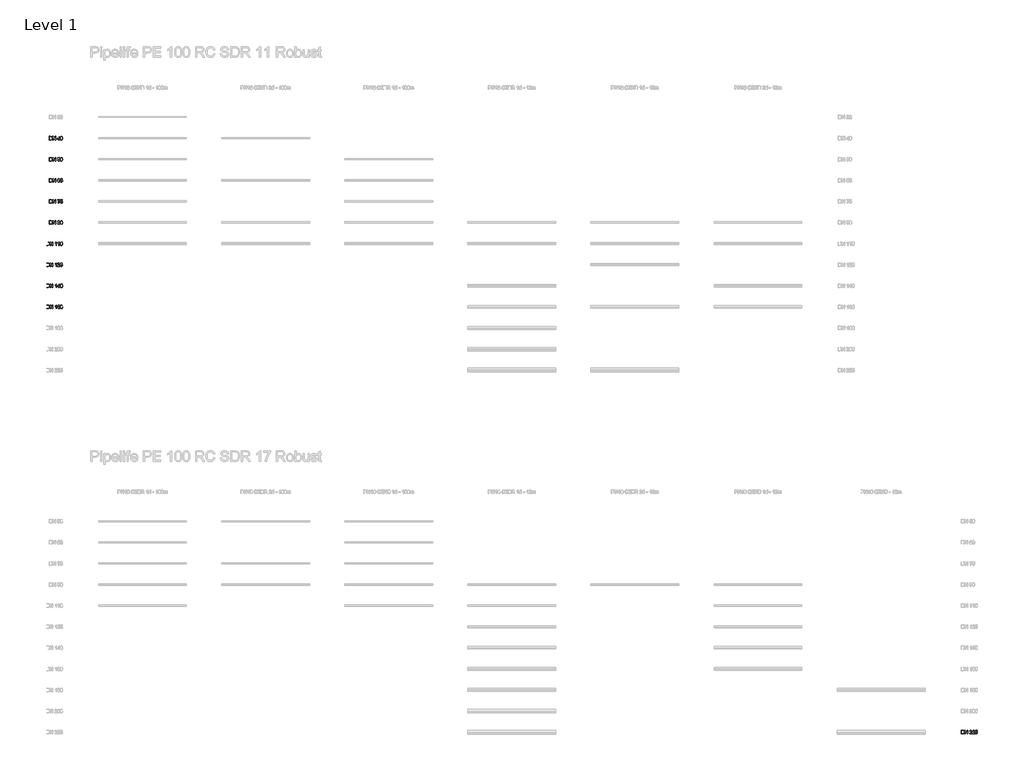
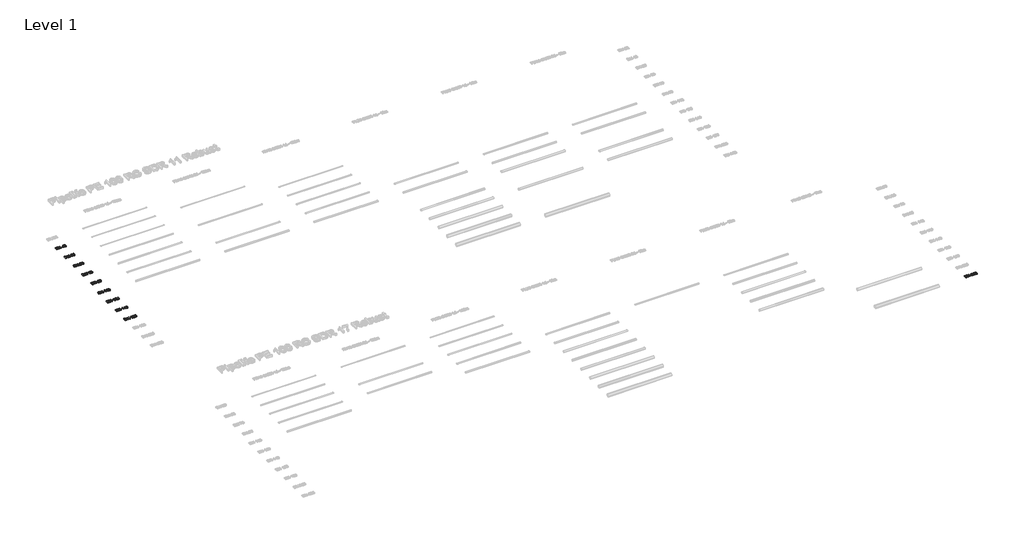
# One storey, part 6 of 13: 10 proxies.
"""IFC4 building model written with IfcOpenShell, lengths in millimetres."""

from ifc_helpers import new_model, si_unit, origin, origin_with_axes, place, context, project, spatial, polyline, outline, extrude, element, save

model = new_model("IFC4")

# Units and contexts
model_context = context("Model", 3, world=origin())
ifc_project = project(units=[si_unit("LENGTHUNIT", "METRE", prefix="MILLI")], contexts=[model_context])

# Site, building, storey
site = spatial("IfcSite", under=ifc_project)
building = spatial("IfcBuilding", under=site)
storey = spatial("IfcBuildingStorey", under=building, Name="Level 1", Elevation=0.0)

# Proxies
placement = place(None, origin())
element("IfcBuildingElementProxy", 1, Name="200mm Arial", ObjectType="200mm Arial", at=placement, inside=storey, context=model_context, shape_type="SweptSolid", body=[
    extrude(outline(polyline([(-19491.3116028, -10313.949573), (-19491.3116028, -10113.0369527), (-19422.0026349, -10113.0369527), (-19386.1464031, -10115.9309577), (-19370.1312736, -10121.5105013), (-19356.6177416, -10130.302881), (-19342.724065, -10145.606772), (-19332.8280393, -10164.6385338), (-19326.9051392, -10187.0302846), (-19324.9308391, -10212.4141423), (-19330.2773908, -10252.9547382), (-19344.0116519, -10282.2136195), (-19362.3567008, -10300.436041), (-19386.3671323, -10310.5160077), (-19418.6671715, -10313.949573), (-19491.3116028, -10313.949573)]), holes=[polyline([(-19466.1975253, -10288.8354954), (-19421.7573803, -10288.8354954), (-19389.4328156, -10285.2057264), (-19370.7934612, -10274.9540815), (-19362.0685265, -10264.0831685), (-19355.5140957, -10250.0116822), (-19351.4122114, -10232.6783089), (-19350.0449167, -10212.0217348), (-19352.7243239, -10184.6513144), (-19360.7625455, -10164.4423301), (-19372.6390025, -10150.5609162), (-19386.8331162, -10142.1732067), (-19422.4440933, -10138.1510302), (-19466.1975253, -10138.1510302), (-19466.1975253, -10288.8354954)])]), origin_with_axes(), (0.0, 0.0, 1.0), 50.0),
    extrude(outline(polyline([(-19290.3989825, -10313.949573), (-19290.3989825, -10113.0369527), (-19263.5190714, -10113.0369527), (-19158.5500754, -10272.2072292), (-19158.5500754, -10113.0369527), (-19133.4359979, -10113.0369527), (-19133.4359979, -10313.949573), (-19160.315909, -10313.949573), (-19265.284905, -10154.7302454), (-19265.284905, -10313.949573), (-19290.3989825, -10313.949573)])), origin_with_axes(), (0.0, 0.0, 1.0), 50.0),
    extrude(outline(polyline([(-18926.2448582, -10313.949573), (-18951.3589358, -10313.949573), (-18951.3589358, -10157.3789958), (-18975.1486381, -10174.3260931), (-19001.5870908, -10187.0057592), (-19001.5870908, -10163.2651077), (-18964.7743658, -10139.769711), (-18951.3037535, -10126.1948653), (-18942.431666, -10113.0369527), (-18926.2448582, -10113.0369527), (-18926.2448582, -10313.949573)])), origin_with_axes(), (0.0, 0.0, 1.0), 50.0),
    extrude(outline(polyline([(-18737.8892767, -10166.4043674), (-18763.0033542, -10169.5436271), (-18772.5192352, -10148.5988789), (-18783.9113143, -10140.7629924), (-18797.6823636, -10138.1510302), (-18820.3438945, -10144.2333458), (-18829.7800677, -10153.8411973), (-18837.4871955, -10167.066555), (-18842.6927257, -10185.7733545), (-18844.6241062, -10211.8255311), (-18834.5502709, -10200.0717013), (-18822.4776101, -10191.7882251), (-18809.0805741, -10186.8770005), (-18795.0336133, -10185.2399256), (-18771.8325221, -10189.7158232), (-18752.3593018, -10203.143516), (-18739.1523382, -10223.6590686), (-18734.750017, -10249.3985455), (-18736.8224189, -10267.3818437), (-18743.0396246, -10284.0530295), (-18752.8865994, -10298.1919608), (-18765.8483083, -10308.5784958), (-18781.3361403, -10314.9612484), (-18798.7614842, -10317.0888326), (-18827.2539447, -10311.4479754), (-18849.9461324, -10294.5254036), (-18858.6051549, -10281.4165418), (-18864.7901709, -10264.6533856), (-18869.7381838, -10220.1641897), (-18864.2444793, -10170.144501), (-18857.3773487, -10151.0667539), (-18847.7633659, -10135.9437382), (-18837.3431084, -10125.9220195), (-18825.2612505, -10118.763649), (-18796.1127338, -10113.0369527), (-18774.0766023, -10116.5808825), (-18756.4305292, -10127.2126722), (-18744.0696942, -10144.0984558), (-18737.8892767, -10166.4043674)]), holes=[polyline([(-18844.6241062, -10249.0061381), (-18838.8115707, -10270.7602267), (-18823.3605269, -10286.554627), (-18800.7235215, -10291.9747551), (-18784.1504376, -10289.1665892), (-18771.1212836, -10280.7420915), (-18762.6783918, -10267.4983397), (-18759.8640945, -10250.2324114), (-18762.6416036, -10233.6593275), (-18770.9741308, -10221.022581), (-18784.224014, -10213.0211476), (-18801.7535911, -10210.3540031), (-18818.3021495, -10213.0211476), (-18832.1406439, -10221.022581), (-18841.5032406, -10233.3527592), (-18844.6241062, -10249.0061381)])]), origin_with_axes(), (0.0, 0.0, 1.0), 50.0),
    extrude(outline(polyline([(-18712.7751992, -10215.1119436), (-18710.9296578, -10182.9529258), (-18705.3930338, -10157.3054194), (-18696.2205094, -10137.7770168), (-18683.4672669, -10123.9753106), (-18667.0413358, -10115.7715422), (-18646.8507456, -10113.0369527), (-18631.3751764, -10114.6556334), (-18617.5182879, -10119.5116758), (-18605.930005, -10127.4150073), (-18597.2602527, -10138.1755557), (-18585.4880288, -10167.9004209), (-18580.9262921, -10215.1119436), (-18582.7534393, -10247.0870203), (-18588.2348811, -10272.6732131), (-18597.3522232, -10292.2200098), (-18610.0870716, -10306.0768983), (-18626.5497909, -10314.335849), (-18646.8507456, -10317.0888326), (-18672.9458418, -10312.3063667), (-18692.7624186, -10297.9589689), (-18701.5180101, -10282.8298218), (-18707.772004, -10263.9789353), (-18712.7751992, -10215.1119436)]), holes=[polyline([(-18687.6611216, -10215.0628927), (-18684.7180657, -10254.5672876), (-18675.8888978, -10277.4311536), (-18662.7432478, -10288.3388547), (-18646.8507456, -10291.9747551), (-18630.9582434, -10288.326592), (-18617.8125935, -10277.3821026), (-18608.9834256, -10254.5059739), (-18606.0403696, -10215.0628927), (-18608.8853237, -10176.4475459), (-18617.420186, -10153.4058703), (-18630.5413105, -10141.9647402), (-18647.1450512, -10138.1510302), (-18662.8658751, -10141.5110191), (-18675.4964903, -10151.5909857), (-18684.6199638, -10176.0674012), (-18687.6611216, -10215.0628927)])]), origin_with_axes(), (0.0, 0.0, 1.0), 50.0),
])
element("IfcBuildingElementProxy", 2, Name="200mm Arial", ObjectType="200mm Arial", at=placement, inside=storey, context=model_context, shape_type="SweptSolid", body=[
    extrude(outline(polyline([(-19337.4878779, -713.949573), (-19337.4878779, -513.0369527), (-19268.17891, -513.0369527), (-19232.3226782, -515.9309577), (-19216.3075487, -521.5105013), (-19202.7940167, -530.302881), (-19188.90034, -545.606772), (-19179.0043144, -564.6385338), (-19173.0814143, -587.0302846), (-19171.1071142, -612.4141423), (-19176.4536659, -652.9547382), (-19190.187927, -682.2136195), (-19208.5329759, -700.436041), (-19232.5434074, -710.5160077), (-19264.8434466, -713.949573), (-19337.4878779, -713.949573)]), holes=[polyline([(-19312.3738004, -688.8354954), (-19267.9336553, -688.8354954), (-19235.6090907, -685.2057264), (-19216.9697363, -674.9540815), (-19208.2448016, -664.0831685), (-19201.6903707, -650.0116822), (-19197.5884865, -632.6783089), (-19196.2211917, -612.0217348), (-19198.9005989, -584.6513144), (-19206.9388205, -564.4423301), (-19218.8152776, -550.5609162), (-19233.0093913, -542.1732067), (-19268.6203684, -538.1510302), (-19312.3738004, -538.1510302), (-19312.3738004, -688.8354954)])]), origin_with_axes(), (0.0, 0.0, 1.0), 50.0),
    extrude(outline(polyline([(-19136.5752576, -713.949573), (-19136.5752576, -513.0369527), (-19109.6953465, -513.0369527), (-19004.7263505, -672.2072292), (-19004.7263505, -513.0369527), (-18979.612273, -513.0369527), (-18979.612273, -713.949573), (-19006.4921841, -713.949573), (-19111.4611801, -554.7302454), (-19111.4611801, -713.949573), (-19136.5752576, -713.949573)])), origin_with_axes(), (0.0, 0.0, 1.0), 50.0),
    extrude(outline(polyline([(-18784.9781721, -713.949573), (-18784.9781721, -666.8606776), (-18876.0167031, -666.8606776), (-18876.0167031, -641.7466), (-18778.6996527, -516.1762123), (-18759.8640945, -516.1762123), (-18759.8640945, -641.7466), (-18734.750017, -641.7466), (-18734.750017, -666.8606776), (-18759.8640945, -666.8606776), (-18759.8640945, -713.949573), (-18784.9781721, -713.949573)]), holes=[polyline([(-18784.9781721, -641.7466), (-18784.9781721, -564.1480245), (-18845.1146156, -641.7466), (-18784.9781721, -641.7466)])]), origin_with_axes(), (0.0, 0.0, 1.0), 50.0),
    extrude(outline(polyline([(-18712.7751992, -615.1119436), (-18710.9296578, -582.9529258), (-18705.3930338, -557.3054194), (-18696.2205094, -537.7770168), (-18683.4672669, -523.9753106), (-18667.0413358, -515.7715422), (-18646.8507456, -513.0369527), (-18631.3751764, -514.6556334), (-18617.5182879, -519.5116758), (-18605.930005, -527.4150073), (-18597.2602527, -538.1755557), (-18585.4880288, -567.9004209), (-18580.9262921, -615.1119436), (-18582.7534393, -647.0870203), (-18588.2348811, -672.6732131), (-18597.3522232, -692.2200098), (-18610.0870716, -706.0768983), (-18626.5497909, -714.335849), (-18646.8507456, -717.0888326), (-18672.9458418, -712.3063667), (-18692.7624186, -697.9589689), (-18701.5180101, -682.8298218), (-18707.772004, -663.9789353), (-18712.7751992, -615.1119436)]), holes=[polyline([(-18687.6611216, -615.0628927), (-18684.7180657, -654.5672876), (-18675.8888978, -677.4311536), (-18662.7432478, -688.3388547), (-18646.8507456, -691.9747551), (-18630.9582434, -688.326592), (-18617.8125935, -677.3821026), (-18608.9834256, -654.5059739), (-18606.0403696, -615.0628927), (-18608.8853237, -576.4475459), (-18617.420186, -553.4058703), (-18630.5413105, -541.9647402), (-18647.1450512, -538.1510302), (-18662.8658751, -541.5110191), (-18675.4964903, -551.5909857), (-18684.6199638, -576.0674012), (-18687.6611216, -615.0628927)])]), origin_with_axes(), (0.0, 0.0, 1.0), 50.0),
])
element("IfcBuildingElementProxy", 3, Name="200mm Arial", ObjectType="200mm Arial", at=placement, inside=storey, context=model_context, shape_type="SweptSolid", body=[
    extrude(outline(polyline([(-19337.4878779, -1913.949573), (-19337.4878779, -1713.0369527), (-19268.17891, -1713.0369527), (-19232.3226782, -1715.9309577), (-19216.3075487, -1721.5105013), (-19202.7940167, -1730.302881), (-19188.90034, -1745.606772), (-19179.0043144, -1764.6385338), (-19173.0814143, -1787.0302846), (-19171.1071142, -1812.4141423), (-19176.4536659, -1852.9547382), (-19190.187927, -1882.2136195), (-19208.5329759, -1900.436041), (-19232.5434074, -1910.5160077), (-19264.8434466, -1913.949573), (-19337.4878779, -1913.949573)]), holes=[polyline([(-19312.3738004, -1888.8354954), (-19267.9336553, -1888.8354954), (-19235.6090907, -1885.2057264), (-19216.9697363, -1874.9540815), (-19208.2448016, -1864.0831685), (-19201.6903707, -1850.0116822), (-19197.5884865, -1832.6783089), (-19196.2211917, -1812.0217348), (-19198.9005989, -1784.6513144), (-19206.9388205, -1764.4423301), (-19218.8152776, -1750.5609162), (-19233.0093913, -1742.1732067), (-19268.6203684, -1738.1510302), (-19312.3738004, -1738.1510302), (-19312.3738004, -1888.8354954)])]), origin_with_axes(), (0.0, 0.0, 1.0), 50.0),
    extrude(outline(polyline([(-19136.5752576, -1913.949573), (-19136.5752576, -1713.0369527), (-19109.6953465, -1713.0369527), (-19004.7263505, -1872.2072292), (-19004.7263505, -1713.0369527), (-18979.612273, -1713.0369527), (-18979.612273, -1913.949573), (-19006.4921841, -1913.949573), (-19111.4611801, -1754.7302454), (-19111.4611801, -1913.949573), (-19136.5752576, -1913.949573)])), origin_with_axes(), (0.0, 0.0, 1.0), 50.0),
    extrude(outline(polyline([(-18866.5989241, -1860.5821582), (-18841.4848465, -1857.4428985), (-18836.8740589, -1872.5199289), (-18828.8297059, -1883.3172655), (-18817.3885758, -1889.8103827), (-18802.5874569, -1891.9747551), (-18784.5857646, -1888.9642541), (-18771.0967581, -1879.9327511), (-18762.6722604, -1865.9225785), (-18759.8640945, -1847.9760685), (-18762.4944508, -1831.0780222), (-18770.3855196, -1818.1531014), (-18783.5986146, -1809.9493329), (-18802.1950494, -1807.2147434), (-18824.2434437, -1811.5802764), (-18838.3455868, -1822.9110419), (-18863.4596644, -1819.7717822), (-18841.4848465, -1716.1762123), (-18744.1677961, -1716.1762123), (-18744.1677961, -1741.2902899), (-18821.1777604, -1741.2902899), (-18831.9199147, -1796.619742), (-18813.979536, -1785.7304349), (-18795.1807661, -1782.1006659), (-18771.7160261, -1786.601089), (-18752.2366745, -1800.1023582), (-18739.1216814, -1820.6792244), (-18734.750017, -1846.4064386), (-18738.6863543, -1871.5205162), (-18750.4953664, -1893.0048247), (-18760.9309523, -1903.5415782), (-18773.1078464, -1911.0678307), (-18787.0260485, -1915.5835821), (-18802.6855588, -1917.0888326), (-18827.3520466, -1913.2199403), (-18847.0030765, -1901.6132634), (-18860.4736888, -1883.6177025), (-18866.5989241, -1860.5821582)])), origin_with_axes(), (0.0, 0.0, 1.0), 50.0),
    extrude(outline(polyline([(-18712.7751992, -1815.1119436), (-18710.9296578, -1782.9529258), (-18705.3930338, -1757.3054194), (-18696.2205094, -1737.7770168), (-18683.4672669, -1723.9753106), (-18667.0413358, -1715.7715422), (-18646.8507456, -1713.0369527), (-18631.3751764, -1714.6556334), (-18617.5182879, -1719.5116758), (-18605.930005, -1727.4150073), (-18597.2602527, -1738.1755557), (-18585.4880288, -1767.9004209), (-18580.9262921, -1815.1119436), (-18582.7534393, -1847.0870203), (-18588.2348811, -1872.6732131), (-18597.3522232, -1892.2200098), (-18610.0870716, -1906.0768983), (-18626.5497909, -1914.335849), (-18646.8507456, -1917.0888326), (-18672.9458418, -1912.3063667), (-18692.7624186, -1897.9589689), (-18701.5180101, -1882.8298218), (-18707.772004, -1863.9789353), (-18712.7751992, -1815.1119436)]), holes=[polyline([(-18687.6611216, -1815.0628927), (-18684.7180657, -1854.5672876), (-18675.8888978, -1877.4311536), (-18662.7432478, -1888.3388547), (-18646.8507456, -1891.9747551), (-18630.9582434, -1888.326592), (-18617.8125935, -1877.3821026), (-18608.9834256, -1854.5059739), (-18606.0403696, -1815.0628927), (-18608.8853237, -1776.4475459), (-18617.420186, -1753.4058703), (-18630.5413105, -1741.9647402), (-18647.1450512, -1738.1510302), (-18662.8658751, -1741.5110191), (-18675.4964903, -1751.5909857), (-18684.6199638, -1776.0674012), (-18687.6611216, -1815.0628927)])]), origin_with_axes(), (0.0, 0.0, 1.0), 50.0),
])
element("IfcBuildingElementProxy", 4, Name="200mm Arial", ObjectType="200mm Arial", at=placement, inside=storey, context=model_context, shape_type="SweptSolid", body=[
    extrude(outline(polyline([(-19337.4878779, -3113.949573), (-19337.4878779, -2913.0369527), (-19268.17891, -2913.0369527), (-19232.3226782, -2915.9309577), (-19216.3075487, -2921.5105013), (-19202.7940167, -2930.302881), (-19188.90034, -2945.606772), (-19179.0043144, -2964.6385338), (-19173.0814143, -2987.0302846), (-19171.1071142, -3012.4141423), (-19176.4536659, -3052.9547382), (-19190.187927, -3082.2136195), (-19208.5329759, -3100.436041), (-19232.5434074, -3110.5160077), (-19264.8434466, -3113.949573), (-19337.4878779, -3113.949573)]), holes=[polyline([(-19312.3738004, -3088.8354954), (-19267.9336553, -3088.8354954), (-19235.6090907, -3085.2057264), (-19216.9697363, -3074.9540815), (-19208.2448016, -3064.0831685), (-19201.6903707, -3050.0116822), (-19197.5884865, -3032.6783089), (-19196.2211917, -3012.0217348), (-19198.9005989, -2984.6513144), (-19206.9388205, -2964.4423301), (-19218.8152776, -2950.5609162), (-19233.0093913, -2942.1732067), (-19268.6203684, -2938.1510302), (-19312.3738004, -2938.1510302), (-19312.3738004, -3088.8354954)])]), origin_with_axes(), (0.0, 0.0, 1.0), 50.0),
    extrude(outline(polyline([(-19136.5752576, -3113.949573), (-19136.5752576, -2913.0369527), (-19109.6953465, -2913.0369527), (-19004.7263505, -3072.2072292), (-19004.7263505, -2913.0369527), (-18979.612273, -2913.0369527), (-18979.612273, -3113.949573), (-19006.4921841, -3113.949573), (-19111.4611801, -2954.7302454), (-19111.4611801, -3113.949573), (-19136.5752576, -3113.949573)])), origin_with_axes(), (0.0, 0.0, 1.0), 50.0),
    extrude(outline(polyline([(-18737.8892767, -2966.4043674), (-18763.0033542, -2969.5436271), (-18772.5192352, -2948.5988789), (-18783.9113143, -2940.7629924), (-18797.6823636, -2938.1510302), (-18820.3438945, -2944.2333458), (-18829.7800677, -2953.8411973), (-18837.4871955, -2967.066555), (-18842.6927257, -2985.7733545), (-18844.6241062, -3011.8255311), (-18834.5502709, -3000.0717013), (-18822.4776101, -2991.7882251), (-18809.0805741, -2986.8770005), (-18795.0336133, -2985.2399256), (-18771.8325221, -2989.7158232), (-18752.3593018, -3003.143516), (-18739.1523382, -3023.6590686), (-18734.750017, -3049.3985455), (-18736.8224189, -3067.3818437), (-18743.0396246, -3084.0530295), (-18752.8865994, -3098.1919608), (-18765.8483083, -3108.5784958), (-18781.3361403, -3114.9612484), (-18798.7614842, -3117.0888326), (-18827.2539447, -3111.4479754), (-18849.9461324, -3094.5254036), (-18858.6051549, -3081.4165418), (-18864.7901709, -3064.6533856), (-18869.7381838, -3020.1641897), (-18864.2444793, -2970.144501), (-18857.3773487, -2951.0667539), (-18847.7633659, -2935.9437382), (-18837.3431084, -2925.9220195), (-18825.2612505, -2918.763649), (-18796.1127338, -2913.0369527), (-18774.0766023, -2916.5808825), (-18756.4305292, -2927.2126722), (-18744.0696942, -2944.0984558), (-18737.8892767, -2966.4043674)]), holes=[polyline([(-18844.6241062, -3049.0061381), (-18838.8115707, -3070.7602267), (-18823.3605269, -3086.554627), (-18800.7235215, -3091.9747551), (-18784.1504376, -3089.1665892), (-18771.1212836, -3080.7420915), (-18762.6783918, -3067.4983397), (-18759.8640945, -3050.2324114), (-18762.6416036, -3033.6593275), (-18770.9741308, -3021.022581), (-18784.224014, -3013.0211476), (-18801.7535911, -3010.3540031), (-18818.3021495, -3013.0211476), (-18832.1406439, -3021.022581), (-18841.5032406, -3033.3527592), (-18844.6241062, -3049.0061381)])]), origin_with_axes(), (0.0, 0.0, 1.0), 50.0),
    extrude(outline(polyline([(-18712.7751992, -3060.5821582), (-18687.6611216, -3057.4428985), (-18682.0386585, -3073.2250361), (-18673.8042331, -3083.8813512), (-18662.5531754, -3089.9514041), (-18647.8808152, -3091.9747551), (-18630.6639378, -3089.1911147), (-18617.3711351, -3080.8401934), (-18608.873061, -3068.3812565), (-18606.0403696, -3053.2735692), (-18608.8485355, -3038.9323028), (-18617.2730332, -3027.3011004), (-18630.0262757, -3019.5939726), (-18645.820676, -3017.02493), (-18663.4299609, -3019.7717822), (-18660.6340577, -2994.6577047), (-18656.6118812, -2994.9520102), (-18641.5655076, -2993.1493885), (-18628.1132893, -2987.7415231), (-18618.6219339, -2978.5935242), (-18615.4581487, -2965.5705016), (-18617.7512798, -2954.7241141), (-18624.6306731, -2945.925603), (-18635.1275727, -2940.0946734), (-18648.2732227, -2938.1510302), (-18661.4433981, -2940.1130675), (-18672.2100778, -2945.9991794), (-18680.0704898, -2955.809366), (-18684.5218619, -2969.5436271), (-18709.6359395, -2966.4043674), (-18702.2415114, -2943.8532011), (-18689.0835987, -2927.0164685), (-18671.0819064, -2916.5318316), (-18649.1561395, -2913.0369527), (-18633.3678705, -2914.7598667), (-18618.8671885, -2919.9286087), (-18606.6412435, -2928.0833263), (-18597.6771856, -2938.7641669), (-18592.1773498, -2951.0698196), (-18590.3440712, -2964.0989736), (-18592.0853793, -2976.2390794), (-18597.3093036, -2987.2510138), (-18605.9422678, -2996.6320047), (-18617.9106953, -3003.87928), (-18602.1898714, -3010.2313758), (-18590.5402749, -3021.0471064), (-18583.3297878, -3035.7378608), (-18580.9262921, -3053.7150276), (-18585.7332835, -3078.191443), (-18600.1542577, -3098.645682), (-18621.9206091, -3112.478045), (-18648.763732, -3117.0888326), (-18673.0439437, -3113.1524953), (-18692.8114695, -3101.3434833), (-18706.5579934, -3083.2804773), (-18712.7751992, -3060.5821582)])), origin_with_axes(), (0.0, 0.0, 1.0), 50.0),
])
element("IfcBuildingElementProxy", 5, Name="200mm Arial", ObjectType="200mm Arial", at=placement, inside=storey, context=model_context, shape_type="SweptSolid", body=[
    extrude(outline(polyline([(-19337.4878779, -4313.949573), (-19337.4878779, -4113.0369527), (-19268.17891, -4113.0369527), (-19232.3226782, -4115.9309577), (-19216.3075487, -4121.5105013), (-19202.7940167, -4130.302881), (-19188.90034, -4145.606772), (-19179.0043144, -4164.6385338), (-19173.0814143, -4187.0302846), (-19171.1071142, -4212.4141423), (-19176.4536659, -4252.9547382), (-19190.187927, -4282.2136195), (-19208.5329759, -4300.436041), (-19232.5434074, -4310.5160077), (-19264.8434466, -4313.949573), (-19337.4878779, -4313.949573)]), holes=[polyline([(-19312.3738004, -4288.8354954), (-19267.9336553, -4288.8354954), (-19235.6090907, -4285.2057264), (-19216.9697363, -4274.9540815), (-19208.2448016, -4264.0831685), (-19201.6903707, -4250.0116822), (-19197.5884865, -4232.6783089), (-19196.2211917, -4212.0217348), (-19198.9005989, -4184.6513144), (-19206.9388205, -4164.4423301), (-19218.8152776, -4150.5609162), (-19233.0093913, -4142.1732067), (-19268.6203684, -4138.1510302), (-19312.3738004, -4138.1510302), (-19312.3738004, -4288.8354954)])]), origin_with_axes(), (0.0, 0.0, 1.0), 50.0),
    extrude(outline(polyline([(-19136.5752576, -4313.949573), (-19136.5752576, -4113.0369527), (-19109.6953465, -4113.0369527), (-19004.7263505, -4272.2072292), (-19004.7263505, -4113.0369527), (-18979.612273, -4113.0369527), (-18979.612273, -4313.949573), (-19006.4921841, -4313.949573), (-19111.4611801, -4154.7302454), (-19111.4611801, -4313.949573), (-19136.5752576, -4313.949573)])), origin_with_axes(), (0.0, 0.0, 1.0), 50.0),
    extrude(outline(polyline([(-18866.5989241, -4141.2902899), (-18866.5989241, -4116.1762123), (-18734.750017, -4116.1762123), (-18734.750017, -4136.4832985), (-18753.5426556, -4160.2668695), (-18772.1513532, -4190.5129008), (-18788.5650215, -4224.4622776), (-18800.7725724, -4259.3558849), (-18810.0922496, -4313.949573), (-18835.2063271, -4313.949573), (-18832.4901317, -4288.0629432), (-18825.2244623, -4257.2957457), (-18813.6055227, -4224.6830068), (-18797.8295164, -4193.2597531), (-18779.4108912, -4164.8531317), (-18759.8640945, -4141.2902899), (-18866.5989241, -4141.2902899)])), origin_with_axes(), (0.0, 0.0, 1.0), 50.0),
    extrude(outline(polyline([(-18712.7751992, -4260.5821582), (-18687.6611216, -4257.4428985), (-18683.0503339, -4272.5199289), (-18675.005981, -4283.3172655), (-18663.5648509, -4289.8103827), (-18648.763732, -4291.9747551), (-18630.7620397, -4288.9642541), (-18617.2730332, -4279.9327511), (-18608.8485355, -4265.9225785), (-18606.0403696, -4247.9760685), (-18608.6707259, -4231.0780222), (-18616.5617947, -4218.1531014), (-18629.7748897, -4209.9493329), (-18648.3713245, -4207.2147434), (-18670.4197188, -4211.5802764), (-18684.5218619, -4222.9110419), (-18709.6359395, -4219.7717822), (-18687.6611216, -4116.1762123), (-18590.3440712, -4116.1762123), (-18590.3440712, -4141.2902899), (-18667.3540355, -4141.2902899), (-18678.0961897, -4196.619742), (-18660.1558111, -4185.7304349), (-18641.3570412, -4182.1006659), (-18617.8923012, -4186.601089), (-18598.4129496, -4200.1023582), (-18585.2979565, -4220.6792244), (-18580.9262921, -4246.4064386), (-18584.8626294, -4271.5205162), (-18596.6716415, -4293.0048247), (-18607.1072274, -4303.5415782), (-18619.2841214, -4311.0678307), (-18633.2023236, -4315.5835821), (-18648.8618339, -4317.0888326), (-18673.5283216, -4313.2199403), (-18693.1793515, -4301.6132634), (-18706.6499639, -4283.6177025), (-18712.7751992, -4260.5821582)])), origin_with_axes(), (0.0, 0.0, 1.0), 50.0),
])
element("IfcBuildingElementProxy", 6, Name="200mm Arial", ObjectType="200mm Arial", at=placement, inside=storey, context=model_context, shape_type="SweptSolid", body=[
    extrude(outline(polyline([(-19337.4878779, -5513.949573), (-19337.4878779, -5313.0369527), (-19268.17891, -5313.0369527), (-19232.3226782, -5315.9309577), (-19216.3075487, -5321.5105013), (-19202.7940167, -5330.302881), (-19188.90034, -5345.606772), (-19179.0043144, -5364.6385338), (-19173.0814143, -5387.0302846), (-19171.1071142, -5412.4141423), (-19176.4536659, -5452.9547382), (-19190.187927, -5482.2136195), (-19208.5329759, -5500.436041), (-19232.5434074, -5510.5160077), (-19264.8434466, -5513.949573), (-19337.4878779, -5513.949573)]), holes=[polyline([(-19312.3738004, -5488.8354954), (-19267.9336553, -5488.8354954), (-19235.6090907, -5485.2057264), (-19216.9697363, -5474.9540815), (-19208.2448016, -5464.0831685), (-19201.6903707, -5450.0116822), (-19197.5884865, -5432.6783089), (-19196.2211917, -5412.0217348), (-19198.9005989, -5384.6513144), (-19206.9388205, -5364.4423301), (-19218.8152776, -5350.5609162), (-19233.0093913, -5342.1732067), (-19268.6203684, -5338.1510302), (-19312.3738004, -5338.1510302), (-19312.3738004, -5488.8354954)])]), origin_with_axes(), (0.0, 0.0, 1.0), 50.0),
    extrude(outline(polyline([(-19136.5752576, -5513.949573), (-19136.5752576, -5313.0369527), (-19109.6953465, -5313.0369527), (-19004.7263505, -5472.2072292), (-19004.7263505, -5313.0369527), (-18979.612273, -5313.0369527), (-18979.612273, -5513.949573), (-19006.4921841, -5513.949573), (-19111.4611801, -5354.7302454), (-19111.4611801, -5513.949573), (-19136.5752576, -5513.949573)])), origin_with_axes(), (0.0, 0.0, 1.0), 50.0),
    extrude(outline(polyline([(-18863.4596644, -5463.7214179), (-18838.3455868, -5460.5821582), (-18834.0536302, -5474.8375855), (-18827.0638723, -5484.5435388), (-18817.5479914, -5490.116951), (-18805.6776657, -5491.9747551), (-18785.3460541, -5487.1922892), (-18771.562742, -5474.4145212), (-18763.3467108, -5452.5868562), (-18759.7169417, -5423.4506021), (-18759.8640945, -5418.5455089), (-18768.5645037, -5429.1650358), (-18779.9504515, -5437.5772708), (-18793.2003347, -5443.0587125), (-18807.4925502, -5444.8858597), (-18830.3932044, -5440.4222249), (-18849.4556231, -5427.0313202), (-18862.3130988, -5406.3440894), (-18866.5989241, -5379.9914758), (-18862.1046324, -5352.7682081), (-18848.6217572, -5331.4310524), (-18828.3698534, -5317.6354776), (-18803.5684756, -5313.0369527), (-18784.8371506, -5315.6611776), (-18767.7858202, -5323.5338523), (-18753.5242615, -5336.2625693), (-18743.162252, -5353.4549212), (-18736.8530757, -5377.2200981), (-18734.750017, -5409.6672901), (-18736.8469444, -5444.070388), (-18743.1377265, -5470.6621249), (-18753.5671811, -5490.6442486), (-18768.0801258, -5505.2185069), (-18786.0511612, -5514.1212512), (-18806.8548881, -5517.0888326), (-18828.3269338, -5513.5878223), (-18845.4579721, -5503.0847914), (-18857.4386624, -5486.2419274), (-18863.4596644, -5463.7214179)]), holes=[polyline([(-18759.8640945, -5379.4028646), (-18762.5741586, -5362.3821909), (-18770.7043507, -5349.2855919), (-18783.3227031, -5340.9346706), (-18799.4972481, -5338.1510302), (-18816.2726671, -5341.1492685), (-18829.7126227, -5350.1439832), (-18838.5417906, -5363.9089012), (-18841.4848465, -5381.2177491), (-18838.7012061, -5396.7362379), (-18830.3502848, -5409.0541534), (-18817.241423, -5417.092375), (-18800.1839612, -5419.7717822), (-18784.1381749, -5417.092375), (-18771.2193855, -5409.0541534), (-18762.7029173, -5396.2825168), (-18759.8640945, -5379.4028646)])]), origin_with_axes(), (0.0, 0.0, 1.0), 50.0),
    extrude(outline(polyline([(-18712.7751992, -5415.1119436), (-18710.9296578, -5382.9529258), (-18705.3930338, -5357.3054194), (-18696.2205094, -5337.7770168), (-18683.4672669, -5323.9753106), (-18667.0413358, -5315.7715422), (-18646.8507456, -5313.0369527), (-18631.3751764, -5314.6556334), (-18617.5182879, -5319.5116758), (-18605.930005, -5327.4150073), (-18597.2602527, -5338.1755557), (-18585.4880288, -5367.9004209), (-18580.9262921, -5415.1119436), (-18582.7534393, -5447.0870203), (-18588.2348811, -5472.6732131), (-18597.3522232, -5492.2200098), (-18610.0870716, -5506.0768983), (-18626.5497909, -5514.335849), (-18646.8507456, -5517.0888326), (-18672.9458418, -5512.3063667), (-18692.7624186, -5497.9589689), (-18701.5180101, -5482.8298218), (-18707.772004, -5463.9789353), (-18712.7751992, -5415.1119436)]), holes=[polyline([(-18687.6611216, -5415.0628927), (-18684.7180657, -5454.5672876), (-18675.8888978, -5477.4311536), (-18662.7432478, -5488.3388547), (-18646.8507456, -5491.9747551), (-18630.9582434, -5488.326592), (-18617.8125935, -5477.3821026), (-18608.9834256, -5454.5059739), (-18606.0403696, -5415.0628927), (-18608.8853237, -5376.4475459), (-18617.420186, -5353.4058703), (-18630.5413105, -5341.9647402), (-18647.1450512, -5338.1510302), (-18662.8658751, -5341.5110191), (-18675.4964903, -5351.5909857), (-18684.6199638, -5376.0674012), (-18687.6611216, -5415.0628927)])]), origin_with_axes(), (0.0, 0.0, 1.0), 50.0),
])
element("IfcBuildingElementProxy", 7, Name="200mm Arial", ObjectType="200mm Arial", at=placement, inside=storey, context=model_context, shape_type="SweptSolid", body=[
    extrude(outline(polyline([(-19491.3116028, -6713.949573), (-19491.3116028, -6513.0369527), (-19422.0026349, -6513.0369527), (-19386.1464031, -6515.9309577), (-19370.1312736, -6521.5105013), (-19356.6177416, -6530.302881), (-19342.724065, -6545.606772), (-19332.8280393, -6564.6385338), (-19326.9051392, -6587.0302846), (-19324.9308391, -6612.4141423), (-19330.2773908, -6652.9547382), (-19344.0116519, -6682.2136195), (-19362.3567008, -6700.436041), (-19386.3671323, -6710.5160077), (-19418.6671715, -6713.949573), (-19491.3116028, -6713.949573)]), holes=[polyline([(-19466.1975253, -6688.8354954), (-19421.7573803, -6688.8354954), (-19389.4328156, -6685.2057264), (-19370.7934612, -6674.9540815), (-19362.0685265, -6664.0831685), (-19355.5140957, -6650.0116822), (-19351.4122114, -6632.6783089), (-19350.0449167, -6612.0217348), (-19352.7243239, -6584.6513144), (-19360.7625455, -6564.4423301), (-19372.6390025, -6550.5609162), (-19386.8331162, -6542.1732067), (-19422.4440933, -6538.1510302), (-19466.1975253, -6538.1510302), (-19466.1975253, -6688.8354954)])]), origin_with_axes(), (0.0, 0.0, 1.0), 50.0),
    extrude(outline(polyline([(-19290.3989825, -6713.949573), (-19290.3989825, -6513.0369527), (-19263.5190714, -6513.0369527), (-19158.5500754, -6672.2072292), (-19158.5500754, -6513.0369527), (-19133.4359979, -6513.0369527), (-19133.4359979, -6713.949573), (-19160.315909, -6713.949573), (-19265.284905, -6554.7302454), (-19265.284905, -6713.949573), (-19290.3989825, -6713.949573)])), origin_with_axes(), (0.0, 0.0, 1.0), 50.0),
    extrude(outline(polyline([(-18926.2448582, -6713.949573), (-18951.3589358, -6713.949573), (-18951.3589358, -6557.3789958), (-18975.1486381, -6574.3260931), (-19001.5870908, -6587.0057592), (-19001.5870908, -6563.2651077), (-18964.7743658, -6539.769711), (-18951.3037535, -6526.1948653), (-18942.431666, -6513.0369527), (-18926.2448582, -6513.0369527), (-18926.2448582, -6713.949573)])), origin_with_axes(), (0.0, 0.0, 1.0), 50.0),
    extrude(outline(polyline([(-18772.4211333, -6713.949573), (-18797.5352108, -6713.949573), (-18797.5352108, -6557.3789958), (-18821.3249132, -6574.3260931), (-18847.7633659, -6587.0057592), (-18847.7633659, -6563.2651077), (-18810.9506409, -6539.769711), (-18797.4800285, -6526.1948653), (-18788.6079411, -6513.0369527), (-18772.4211333, -6513.0369527), (-18772.4211333, -6713.949573)])), origin_with_axes(), (0.0, 0.0, 1.0), 50.0),
    extrude(outline(polyline([(-18712.7751992, -6615.1119436), (-18710.9296578, -6582.9529258), (-18705.3930338, -6557.3054194), (-18696.2205094, -6537.7770168), (-18683.4672669, -6523.9753106), (-18667.0413358, -6515.7715422), (-18646.8507456, -6513.0369527), (-18631.3751764, -6514.6556334), (-18617.5182879, -6519.5116758), (-18605.930005, -6527.4150073), (-18597.2602527, -6538.1755557), (-18585.4880288, -6567.9004209), (-18580.9262921, -6615.1119436), (-18582.7534393, -6647.0870203), (-18588.2348811, -6672.6732131), (-18597.3522232, -6692.2200098), (-18610.0870716, -6706.0768983), (-18626.5497909, -6714.335849), (-18646.8507456, -6717.0888326), (-18672.9458418, -6712.3063667), (-18692.7624186, -6697.9589689), (-18701.5180101, -6682.8298218), (-18707.772004, -6663.9789353), (-18712.7751992, -6615.1119436)]), holes=[polyline([(-18687.6611216, -6615.0628927), (-18684.7180657, -6654.5672876), (-18675.8888978, -6677.4311536), (-18662.7432478, -6688.3388547), (-18646.8507456, -6691.9747551), (-18630.9582434, -6688.326592), (-18617.8125935, -6677.3821026), (-18608.9834256, -6654.5059739), (-18606.0403696, -6615.0628927), (-18608.8853237, -6576.4475459), (-18617.420186, -6553.4058703), (-18630.5413105, -6541.9647402), (-18647.1450512, -6538.1510302), (-18662.8658751, -6541.5110191), (-18675.4964903, -6551.5909857), (-18684.6199638, -6576.0674012), (-18687.6611216, -6615.0628927)])]), origin_with_axes(), (0.0, 0.0, 1.0), 50.0),
])
element("IfcBuildingElementProxy", 8, Name="200mm Arial", ObjectType="200mm Arial", at=placement, inside=storey, context=model_context, shape_type="SweptSolid", body=[
    extrude(outline(polyline([(-19491.3116028, -7913.949573), (-19491.3116028, -7713.0369527), (-19422.0026349, -7713.0369527), (-19386.1464031, -7715.9309577), (-19370.1312736, -7721.5105013), (-19356.6177416, -7730.302881), (-19342.724065, -7745.606772), (-19332.8280393, -7764.6385338), (-19326.9051392, -7787.0302846), (-19324.9308391, -7812.4141423), (-19330.2773908, -7852.9547382), (-19344.0116519, -7882.2136195), (-19362.3567008, -7900.436041), (-19386.3671323, -7910.5160077), (-19418.6671715, -7913.949573), (-19491.3116028, -7913.949573)]), holes=[polyline([(-19466.1975253, -7888.8354954), (-19421.7573803, -7888.8354954), (-19389.4328156, -7885.2057264), (-19370.7934612, -7874.9540815), (-19362.0685265, -7864.0831685), (-19355.5140957, -7850.0116822), (-19351.4122114, -7832.6783089), (-19350.0449167, -7812.0217348), (-19352.7243239, -7784.6513144), (-19360.7625455, -7764.4423301), (-19372.6390025, -7750.5609162), (-19386.8331162, -7742.1732067), (-19422.4440933, -7738.1510302), (-19466.1975253, -7738.1510302), (-19466.1975253, -7888.8354954)])]), origin_with_axes(), (0.0, 0.0, 1.0), 50.0),
    extrude(outline(polyline([(-19290.3989825, -7913.949573), (-19290.3989825, -7713.0369527), (-19263.5190714, -7713.0369527), (-19158.5500754, -7872.2072292), (-19158.5500754, -7713.0369527), (-19133.4359979, -7713.0369527), (-19133.4359979, -7913.949573), (-19160.315909, -7913.949573), (-19265.284905, -7754.7302454), (-19265.284905, -7913.949573), (-19290.3989825, -7913.949573)])), origin_with_axes(), (0.0, 0.0, 1.0), 50.0),
    extrude(outline(polyline([(-18926.2448582, -7913.949573), (-18951.3589358, -7913.949573), (-18951.3589358, -7757.3789958), (-18975.1486381, -7774.3260931), (-19001.5870908, -7787.0057592), (-19001.5870908, -7763.2651077), (-18964.7743658, -7739.769711), (-18951.3037535, -7726.1948653), (-18942.431666, -7713.0369527), (-18926.2448582, -7713.0369527), (-18926.2448582, -7913.949573)])), origin_with_axes(), (0.0, 0.0, 1.0), 50.0),
    extrude(outline(polyline([(-18737.8892767, -7888.8354954), (-18737.8892767, -7913.949573), (-18869.7381838, -7913.949573), (-18867.0403825, -7896.6345937), (-18851.7855424, -7869.9754118), (-18820.3438945, -7840.8636832), (-18776.98287, -7799.0232377), (-18768.852678, -7784.6022634), (-18766.1426139, -7770.5736967), (-18768.6993938, -7757.9982638), (-18776.3697334, -7747.5442838), (-18788.1603513, -7740.4993436), (-18803.0779662, -7738.1510302), (-18818.7436079, -7740.4441613), (-18830.9143705, -7747.3235546), (-18838.7686511, -7758.2496499), (-18841.4848465, -7772.6828868), (-18866.5989241, -7769.5436271), (-18860.510477, -7745.2511527), (-18847.346433, -7727.5069778), (-18827.7935049, -7716.6544589), (-18802.538406, -7713.0369527), (-18777.099366, -7717.0591291), (-18757.5832262, -7729.1256586), (-18745.1672088, -7747.1518763), (-18741.0285364, -7769.0531178), (-18745.4921713, -7792.8673456), (-18760.3300784, -7817.4909138), (-18796.3089375, -7851.9001431), (-18825.1999369, -7876.0577275), (-18836.5307023, -7888.8354954), (-18737.8892767, -7888.8354954)])), origin_with_axes(), (0.0, 0.0, 1.0), 50.0),
    extrude(outline(polyline([(-18712.7751992, -7860.5821582), (-18687.6611216, -7857.4428985), (-18683.0503339, -7872.5199289), (-18675.005981, -7883.3172655), (-18663.5648509, -7889.8103827), (-18648.763732, -7891.9747551), (-18630.7620397, -7888.9642541), (-18617.2730332, -7879.9327511), (-18608.8485355, -7865.9225785), (-18606.0403696, -7847.9760685), (-18608.6707259, -7831.0780222), (-18616.5617947, -7818.1531014), (-18629.7748897, -7809.9493329), (-18648.3713245, -7807.2147434), (-18670.4197188, -7811.5802764), (-18684.5218619, -7822.9110419), (-18709.6359395, -7819.7717822), (-18687.6611216, -7716.1762123), (-18590.3440712, -7716.1762123), (-18590.3440712, -7741.2902899), (-18667.3540355, -7741.2902899), (-18678.0961897, -7796.619742), (-18660.1558111, -7785.7304349), (-18641.3570412, -7782.1006659), (-18617.8923012, -7786.601089), (-18598.4129496, -7800.1023582), (-18585.2979565, -7820.6792244), (-18580.9262921, -7846.4064386), (-18584.8626294, -7871.5205162), (-18596.6716415, -7893.0048247), (-18607.1072274, -7903.5415782), (-18619.2841214, -7911.0678307), (-18633.2023236, -7915.5835821), (-18648.8618339, -7917.0888326), (-18673.5283216, -7913.2199403), (-18693.1793515, -7901.6132634), (-18706.6499639, -7883.6177025), (-18712.7751992, -7860.5821582)])), origin_with_axes(), (0.0, 0.0, 1.0), 50.0),
])
element("IfcBuildingElementProxy", 9, Name="200mm Arial", ObjectType="200mm Arial", at=placement, inside=storey, context=model_context, shape_type="SweptSolid", body=[
    extrude(outline(polyline([(-19491.3116028, -9113.949573), (-19491.3116028, -8913.0369527), (-19422.0026349, -8913.0369527), (-19386.1464031, -8915.9309577), (-19370.1312736, -8921.5105013), (-19356.6177416, -8930.302881), (-19342.724065, -8945.606772), (-19332.8280393, -8964.6385338), (-19326.9051392, -8987.0302846), (-19324.9308391, -9012.4141423), (-19330.2773908, -9052.9547382), (-19344.0116519, -9082.2136195), (-19362.3567008, -9100.436041), (-19386.3671323, -9110.5160077), (-19418.6671715, -9113.949573), (-19491.3116028, -9113.949573)]), holes=[polyline([(-19466.1975253, -9088.8354954), (-19421.7573803, -9088.8354954), (-19389.4328156, -9085.2057264), (-19370.7934612, -9074.9540815), (-19362.0685265, -9064.0831685), (-19355.5140957, -9050.0116822), (-19351.4122114, -9032.6783089), (-19350.0449167, -9012.0217348), (-19352.7243239, -8984.6513144), (-19360.7625455, -8964.4423301), (-19372.6390025, -8950.5609162), (-19386.8331162, -8942.1732067), (-19422.4440933, -8938.1510302), (-19466.1975253, -8938.1510302), (-19466.1975253, -9088.8354954)])]), origin_with_axes(), (0.0, 0.0, 1.0), 50.0),
    extrude(outline(polyline([(-19290.3989825, -9113.949573), (-19290.3989825, -8913.0369527), (-19263.5190714, -8913.0369527), (-19158.5500754, -9072.2072292), (-19158.5500754, -8913.0369527), (-19133.4359979, -8913.0369527), (-19133.4359979, -9113.949573), (-19160.315909, -9113.949573), (-19265.284905, -8954.7302454), (-19265.284905, -9113.949573), (-19290.3989825, -9113.949573)])), origin_with_axes(), (0.0, 0.0, 1.0), 50.0),
    extrude(outline(polyline([(-18926.2448582, -9113.949573), (-18951.3589358, -9113.949573), (-18951.3589358, -8957.3789958), (-18975.1486381, -8974.3260931), (-19001.5870908, -8987.0057592), (-19001.5870908, -8963.2651077), (-18964.7743658, -8939.769711), (-18951.3037535, -8926.1948653), (-18942.431666, -8913.0369527), (-18926.2448582, -8913.0369527), (-18926.2448582, -9113.949573)])), origin_with_axes(), (0.0, 0.0, 1.0), 50.0),
    extrude(outline(polyline([(-18784.9781721, -9113.949573), (-18784.9781721, -9066.8606776), (-18876.0167031, -9066.8606776), (-18876.0167031, -9041.7466), (-18778.6996527, -8916.1762123), (-18759.8640945, -8916.1762123), (-18759.8640945, -9041.7466), (-18734.750017, -9041.7466), (-18734.750017, -9066.8606776), (-18759.8640945, -9066.8606776), (-18759.8640945, -9113.949573), (-18784.9781721, -9113.949573)]), holes=[polyline([(-18784.9781721, -9041.7466), (-18784.9781721, -8964.1480245), (-18845.1146156, -9041.7466), (-18784.9781721, -9041.7466)])]), origin_with_axes(), (0.0, 0.0, 1.0), 50.0),
    extrude(outline(polyline([(-18712.7751992, -9015.1119436), (-18710.9296578, -8982.9529258), (-18705.3930338, -8957.3054194), (-18696.2205094, -8937.7770168), (-18683.4672669, -8923.9753106), (-18667.0413358, -8915.7715422), (-18646.8507456, -8913.0369527), (-18631.3751764, -8914.6556334), (-18617.5182879, -8919.5116758), (-18605.930005, -8927.4150073), (-18597.2602527, -8938.1755557), (-18585.4880288, -8967.9004209), (-18580.9262921, -9015.1119436), (-18582.7534393, -9047.0870203), (-18588.2348811, -9072.6732131), (-18597.3522232, -9092.2200098), (-18610.0870716, -9106.0768983), (-18626.5497909, -9114.335849), (-18646.8507456, -9117.0888326), (-18672.9458418, -9112.3063667), (-18692.7624186, -9097.9589689), (-18701.5180101, -9082.8298218), (-18707.772004, -9063.9789353), (-18712.7751992, -9015.1119436)]), holes=[polyline([(-18687.6611216, -9015.0628927), (-18684.7180657, -9054.5672876), (-18675.8888978, -9077.4311536), (-18662.7432478, -9088.3388547), (-18646.8507456, -9091.9747551), (-18630.9582434, -9088.326592), (-18617.8125935, -9077.3821026), (-18608.9834256, -9054.5059739), (-18606.0403696, -9015.0628927), (-18608.8853237, -8976.4475459), (-18617.420186, -8953.4058703), (-18630.5413105, -8941.9647402), (-18647.1450512, -8938.1510302), (-18662.8658751, -8941.5110191), (-18675.4964903, -8951.5909857), (-18684.6199638, -8976.0674012), (-18687.6611216, -9015.0628927)])]), origin_with_axes(), (0.0, 0.0, 1.0), 50.0),
])
element("IfcBuildingElementProxy", 10, Name="200mm Arial", ObjectType="200mm Arial", at=placement, inside=storey, context=model_context, shape_type="SweptSolid", body=[
    extrude(outline(polyline([(32539.3076926, -34513.949573), (32539.3076926, -34313.0369527), (32608.6166605, -34313.0369527), (32644.4728923, -34315.9309577), (32660.4880218, -34321.5105013), (32674.0015538, -34330.302881), (32687.8952305, -34345.606772), (32697.7912562, -34364.6385338), (32703.7141563, -34387.0302846), (32705.6884563, -34412.4141423), (32700.3419047, -34452.9547382), (32686.6076435, -34482.2136195), (32668.2625947, -34500.436041), (32644.2521631, -34510.5160077), (32611.9521239, -34513.949573), (32539.3076926, -34513.949573)]), holes=[polyline([(32564.4217702, -34488.8354954), (32608.8619152, -34488.8354954), (32641.1864798, -34485.2057264), (32659.8258342, -34474.9540815), (32668.5507689, -34464.0831685), (32675.1051998, -34450.0116822), (32679.207084, -34432.6783089), (32680.5743788, -34412.0217348), (32677.8949716, -34384.6513144), (32669.85675, -34364.4423301), (32657.9802929, -34350.5609162), (32643.7861793, -34342.1732067), (32608.1752021, -34338.1510302), (32564.4217702, -34338.1510302), (32564.4217702, -34488.8354954)])]), origin_with_axes(), (0.0, 0.0, 1.0), 50.0),
    extrude(outline(polyline([(32740.2203129, -34513.949573), (32740.2203129, -34313.0369527), (32767.100224, -34313.0369527), (32872.06922, -34472.2072292), (32872.06922, -34313.0369527), (32897.1832975, -34313.0369527), (32897.1832975, -34513.949573), (32870.3033864, -34513.949573), (32765.3343905, -34354.7302454), (32765.3343905, -34513.949573), (32740.2203129, -34513.949573)])), origin_with_axes(), (0.0, 0.0, 1.0), 50.0),
    extrude(outline(polyline([(33138.9062938, -34488.8354954), (33138.9062938, -34513.949573), (33007.0573868, -34513.949573), (33009.7551881, -34496.6345937), (33025.0100281, -34469.9754118), (33056.451676, -34440.8636832), (33099.8127005, -34399.0232377), (33107.9428926, -34384.6022634), (33110.6529566, -34370.5736967), (33108.0961767, -34357.9982638), (33100.4258371, -34347.5442838), (33088.6352192, -34340.4993436), (33073.7176043, -34338.1510302), (33058.0519627, -34340.4441613), (33045.8812, -34347.3235546), (33038.0269194, -34358.2496499), (33035.310724, -34372.6828868), (33010.1966465, -34369.5436271), (33016.2850935, -34345.2511527), (33029.4491375, -34327.5069778), (33049.0020656, -34316.6544589), (33074.2571645, -34313.0369527), (33099.6962045, -34317.0591291), (33119.2123444, -34329.1256586), (33131.6283617, -34347.1518763), (33135.7670341, -34369.0531178), (33131.3033993, -34392.8673456), (33116.4654921, -34417.4909138), (33080.486633, -34451.9001431), (33051.5956336, -34476.0577275), (33040.2648682, -34488.8354954), (33138.9062938, -34488.8354954)])), origin_with_axes(), (0.0, 0.0, 1.0), 50.0),
    extrude(outline(polyline([(33292.7300188, -34488.8354954), (33292.7300188, -34513.949573), (33160.8811117, -34513.949573), (33163.578913, -34496.6345937), (33178.833753, -34469.9754118), (33210.2754009, -34440.8636832), (33253.6364254, -34399.0232377), (33261.7666175, -34384.6022634), (33264.4766815, -34370.5736967), (33261.9199017, -34357.9982638), (33254.2495621, -34347.5442838), (33242.4589441, -34340.4993436), (33227.5413292, -34338.1510302), (33211.8756876, -34340.4441613), (33199.7049249, -34347.3235546), (33191.8506443, -34358.2496499), (33189.1344489, -34372.6828868), (33164.0203714, -34369.5436271), (33170.1088184, -34345.2511527), (33183.2728625, -34327.5069778), (33202.8257905, -34316.6544589), (33228.0808895, -34313.0369527), (33253.5199294, -34317.0591291), (33273.0360693, -34329.1256586), (33285.4520866, -34347.1518763), (33289.5907591, -34369.0531178), (33285.1271242, -34392.8673456), (33270.289217, -34417.4909138), (33234.3103579, -34451.9001431), (33205.4193586, -34476.0577275), (33194.0885931, -34488.8354954), (33292.7300188, -34488.8354954)])), origin_with_axes(), (0.0, 0.0, 1.0), 50.0),
    extrude(outline(polyline([(33317.8440963, -34460.5821582), (33342.9581738, -34457.4428985), (33347.5689615, -34472.5199289), (33355.6133145, -34483.3172655), (33367.0544445, -34489.8103827), (33381.8555634, -34491.9747551), (33399.8572557, -34488.9642541), (33413.3462622, -34479.9327511), (33421.7707599, -34465.9225785), (33424.5789258, -34447.9760685), (33421.9485696, -34431.0780222), (33414.0575008, -34418.1531014), (33400.8444058, -34409.9493329), (33382.2479709, -34407.2147434), (33360.1995767, -34411.5802764), (33346.0974335, -34422.9110419), (33320.983356, -34419.7717822), (33342.9581738, -34316.1762123), (33440.2752243, -34316.1762123), (33440.2752243, -34341.2902899), (33363.26526, -34341.2902899), (33352.5231057, -34396.619742), (33370.4634843, -34385.7304349), (33389.2622543, -34382.1006659), (33412.7269942, -34386.601089), (33432.2063459, -34400.1023582), (33445.321339, -34420.6792244), (33449.6930034, -34446.4064386), (33445.756666, -34471.5205162), (33433.947654, -34493.0048247), (33423.512068, -34503.5415782), (33411.335174, -34511.0678307), (33397.4169718, -34515.5835821), (33381.7574616, -34517.0888326), (33357.0909738, -34513.2199403), (33337.4399439, -34501.6132634), (33323.9693315, -34483.6177025), (33317.8440963, -34460.5821582)])), origin_with_axes(), (0.0, 0.0, 1.0), 50.0),
])

save(model, "model.ifc")
